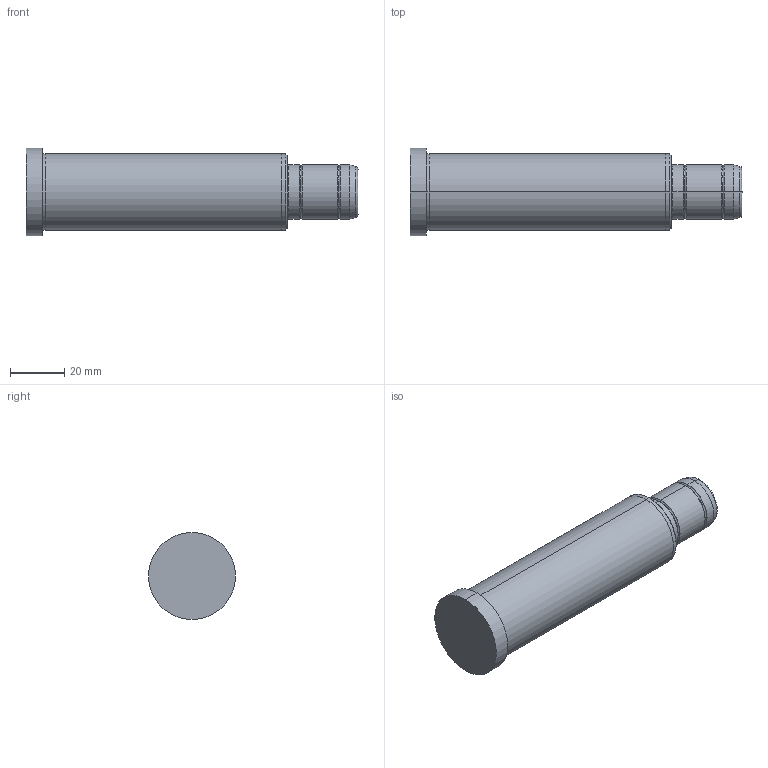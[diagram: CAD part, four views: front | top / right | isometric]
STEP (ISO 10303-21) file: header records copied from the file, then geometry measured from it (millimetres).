
FILE_DESCRIPTION( ( 'STEP AP203' ), '1' );
FILE_NAME( 'C:/Projects/D02 - 20x96x26.step', '2003-01-04T13:47:06', ( ' ' ), ( ' ' ), 'XStep 1.0', ' ', ' ' );
FILE_SCHEMA( ( 'CONFIG_CONTROL_DESIGN' ) );
Length unit declared in the file: metre
Products named in the file (1): 1
Bounding box: 122 x 32 x 32 mm (x, y, z)
Volume: 68352 mm3; surface area: 11732.3 mm2
Topology: 1 solids, 1 shells, 36 faces, 70 edges, 40 vertices
Faces by surface type: bspline 18, revolution 18
Entity records: 1127 total; most frequent: CARTESIAN_POINT 417, ORIENTED_EDGE 140, DIRECTION 118, EDGE_CURVE 70, AXIS2_PLACEMENT_3D 41, EDGE_LOOP 40, VERTEX_POINT 40, CIRCLE 40
